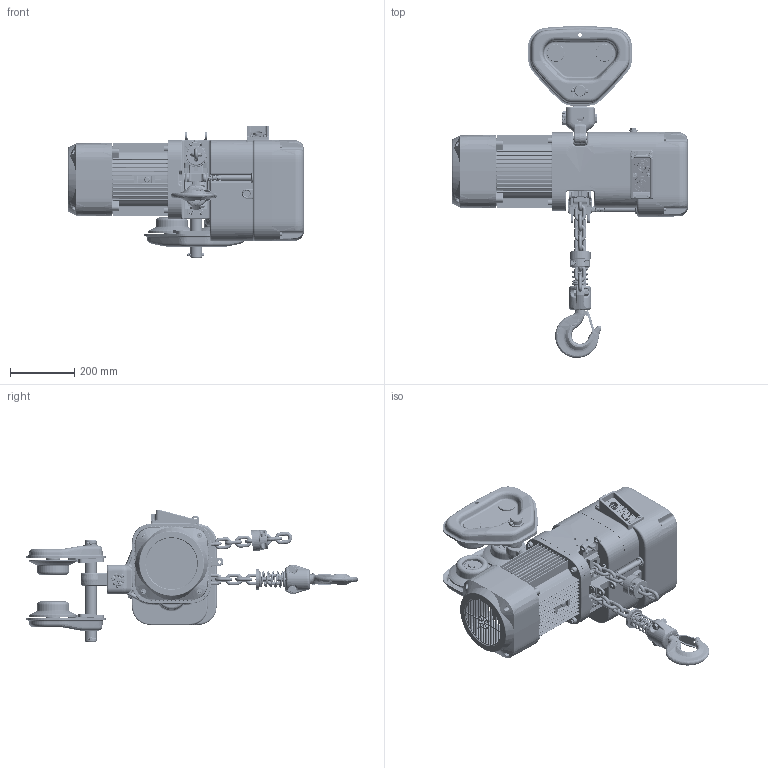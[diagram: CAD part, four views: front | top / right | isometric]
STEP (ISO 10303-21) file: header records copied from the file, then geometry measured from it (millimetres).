
FILE_DESCRIPTION (( 'STEP AP214' ), '1' );
FILE_NAME ('NER2P025S.STEP', '2026-08-05T13:18:58', ( '' ), ( '' ), 'SwSTEP 2.0', 'SolidWorks 2026', '' );
FILE_SCHEMA (( 'AUTOMOTIVE_DESIGN' ));
Length unit declared in the file: inch
Products named in the file (68): PTF2030_5" FLANGE; external tooth lock washer_am_PreviewCfg; hex slotted nut_ai_PreviewCfg; ER1BS9135; NER2025S_Suspender for Push Trolley; LCER2025 NP (SHAPED 2); 9009436_9009436; ER1ES1041; ER2EI4511; single coil rectangular section spring washer_bsi_9012711; ER2FS2015; ER2BHM25I9A6; ER2FS9338; 90912116_90912116; ER2FS9331; E3S112003; ER2FS9104_ER2FS9104; MS561010; ER2FS9101; ER1FH9054; ER2FS9118; MS164020; ER2FS1011; T6GA0309103; ER2ES1002; ER2FS9117; ER2CS9511; T6G5102030; ER2BHM20I9A5; ER2EI2523; ER2BHM1QS9A6; T6GA0309112; T7GB004030; ER1EM9051; T6G5112030; ER2FS9032; 9091255_9091255; ER2ES9107_ER2ES9107; ER2FS6122; J1GR020-0630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
Assembly tree (139 placements, depth 5):
  NER2P025S
    PTF2030_5" FLANGE
      T6G5112030  x2
        T6GA0309112
        T6GA0309103
        T6GA0309113
      T6G5102030  x4
        T6GA0309102
        J1GR020-0630
      MS104030  x4
      9047125_B27.7M - 3AM1-23  x4
      T7G115030
      T7G117030
      MS164020  x2
      9009432_9009432  x2
    NER2025S_Suspender for Push Trolley
      ER2FS9104_ER2FS9104
      ER2FS9103
      ER2FS9101
      ER2FS9105
      ER2ES9107_ER2ES9107
      ER2FS9331
      ER2FS9338
      ER2FS9337
      ER2CS9357
      single coil rectangular section spring washer_bsi_9012711  x4
      Socket Head Cap Screw_AM_B18.3.1M - 5 x 0.8 x 25 Hex SHCS -- 25NHX  x4
      9091255_9091255  x4
      90912116_90912116  x4
      external tooth lock washer_am_PreviewCfg  x4
      9091254_9091254  x4
      ES127005S
      ER1BS9135
      E3S112003
      E3S111003
      ER2EI4511
        ER2CS9511
        MS561010  x8
        ER2EI2523
        ER2EI2564
        ES558003  x8
      ER1EM9051
      ER2FS6121
      ER2FS6122
      ER1EM9053
      ER1ES1041
      LCER2025NP_12 Links
        LCER2025NP  x12
      LCER2025 NP (SHAPED 2)
        LCER2025NP  x12
      ER2BHM20I9A5
      ER2FS1011
        ER2FS9011
        ER2ES1002
        ER2FS2015
          ER2FS9015  x2
          J1BY9-1204030_B18.2.3.1M - Hex cap screw, M12 x 1.75 x 40 --40C  x2
          J1WS011-20120_Rectangular section spring washer BS 4464 - 16 (Type B)  x2
          J1NA001-20120_B18.2.4.1M - Hex nut, Style 1,  M12 x 1.75 --D-C  x2
      ER1FH9054
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Bounding box: 771.81 x 1035.55 x 413.72 mm (x, y, z)
Volume: 32517907.8 mm3; surface area: 3361499.7 mm2
Topology: 147 solids, 167 shells, 8413 faces, 21515 edges, 13480 vertices
Faces by surface type: plane 3214, cylinder 2851, torus 942, bspline 589, cone 554, sphere 263
Entity records: 211836 total; most frequent: CARTESIAN_POINT 75722, DIRECTION 27911, ORIENTED_EDGE 27254, EDGE_CURVE 13629, AXIS2_PLACEMENT_3D 10953, VERTEX_POINT 8598, LINE 6005, VECTOR 6005
